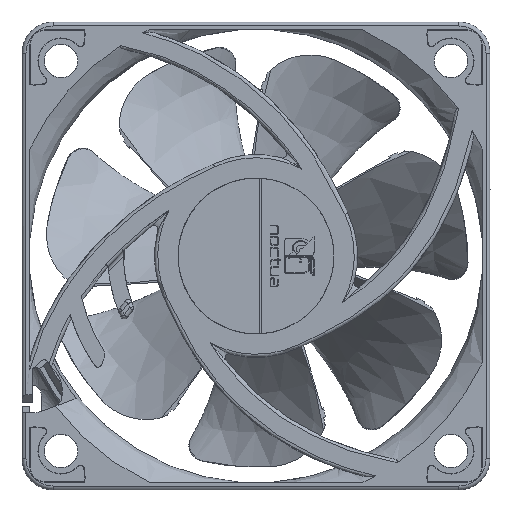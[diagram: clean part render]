
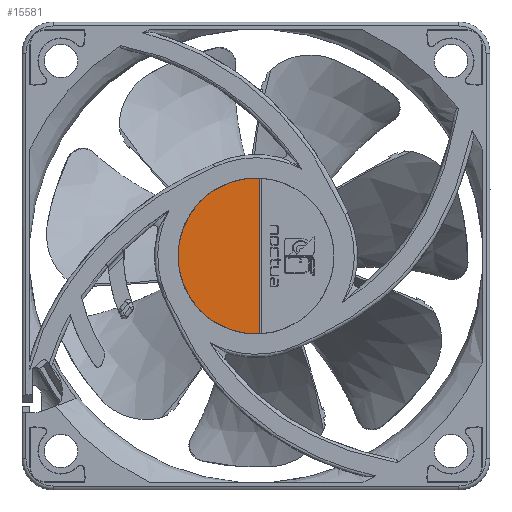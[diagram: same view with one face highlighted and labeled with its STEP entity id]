
A CAD part, front view. The second image highlights one B-rep face of the part: STEP entity #15581.
In plain terms, the highlighted planar face has unit normal (0, -1, 0) as drawn and (0, 0, 1) by its records, which use the part's own axes.
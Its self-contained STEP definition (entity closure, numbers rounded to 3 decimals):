
#992=CIRCLE('',#18118,10.);
#6203=ORIENTED_EDGE('',*,*,#8921,.F.);
#6204=ORIENTED_EDGE('',*,*,#9026,.T.);
#8921=EDGE_CURVE('',#10666,#10667,#992,.T.);
#9026=EDGE_CURVE('',#10666,#10667,#11623,.T.);
#10666=VERTEX_POINT('',#37952);
#10667=VERTEX_POINT('',#37953);
#11623=LINE('',#38257,#12545);
#12545=VECTOR('',#21587,1000.);
#13533=EDGE_LOOP('',(#6203,#6204));
#14435=FACE_BOUND('',#13533,.T.);
#14787=PLANE('',#18142);
#15581=ADVANCED_FACE('',(#14435),#14787,.F.);
#18118=AXIS2_PLACEMENT_3D('',#37951,#21470,#21471);
#18142=AXIS2_PLACEMENT_3D('',#38256,#21585,#21586);
#21470=DIRECTION('',(0.,0.,-1.));
#21471=DIRECTION('',(1.,0.,0.));
#21585=DIRECTION('',(0.,0.,-1.));
#21586=DIRECTION('',(-1.,0.,0.));
#21587=DIRECTION('',(-1.,0.,0.));
#37951=CARTESIAN_POINT('',(0.,0.,0.5));
#37952=CARTESIAN_POINT('',(9.987,0.5,0.5));
#37953=CARTESIAN_POINT('',(-9.987,0.5,0.5));
#38256=CARTESIAN_POINT('',(0.,0.,0.5));
#38257=CARTESIAN_POINT('',(-9.987,0.5,0.5));
